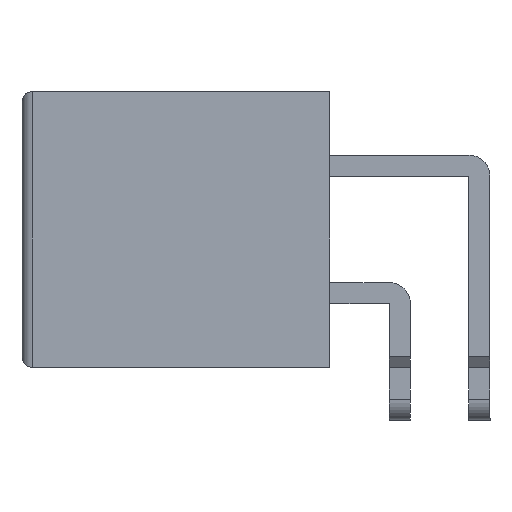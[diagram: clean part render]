
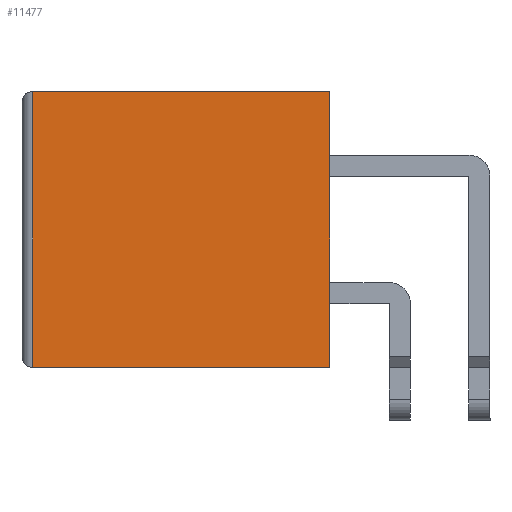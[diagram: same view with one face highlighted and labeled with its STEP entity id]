
A CAD part, left-side view. The second image highlights one B-rep face of the part: STEP entity #11477.
In plain terms, the highlighted planar face has unit normal (-1, 0, 0).
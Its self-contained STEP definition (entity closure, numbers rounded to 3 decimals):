
#1947=VERTEX_POINT('',#18834);
#1948=VERTEX_POINT('',#18838);
#1952=VERTEX_POINT('',#18850);
#1953=VERTEX_POINT('',#18856);
#3086=VECTOR('',#14022,1.);
#3090=VECTOR('',#14033,1.);
#3094=VECTOR('',#14038,1.);
#3095=VECTOR('',#14039,1.);
#4239=LINE('',#18837,#3086);
#4243=LINE('',#18849,#3090);
#4247=LINE('',#18855,#3094);
#4248=LINE('',#18857,#3095);
#5972=EDGE_CURVE('',#1948,#1947,#4239,.T.);
#5978=EDGE_CURVE('',#1952,#1947,#4243,.T.);
#5982=EDGE_CURVE('',#1948,#1953,#4247,.T.);
#5983=EDGE_CURVE('',#1953,#1952,#4248,.T.);
#9347=ORIENTED_EDGE('',*,*,#5972,.F.);
#9348=ORIENTED_EDGE('',*,*,#5982,.T.);
#9349=ORIENTED_EDGE('',*,*,#5983,.T.);
#9350=ORIENTED_EDGE('',*,*,#5978,.T.);
#10150=EDGE_LOOP('',(#9347,#9348,#9349,#9350));
#10836=FACE_BOUND('',#10150,.T.);
#11477=ADVANCED_FACE('',(#10836),#19242,.F.);
#12072=AXIS2_PLACEMENT_3D('',#18854,#14037,$);
#14022=DIRECTION('',(0.,0.,1.));
#14033=DIRECTION('',(0.,1.,0.));
#14037=DIRECTION('',(1.,0.,0.));
#14038=DIRECTION('',(0.,-1.,0.));
#14039=DIRECTION('',(0.,0.,1.));
#18834=CARTESIAN_POINT('',(0.,28.,0.));
#18837=CARTESIAN_POINT('',(0.,28.,-13.));
#18838=CARTESIAN_POINT('',(0.,28.,-26.));
#18849=CARTESIAN_POINT('',(0.,0.,0.));
#18850=CARTESIAN_POINT('',(0.,0.,0.));
#18854=CARTESIAN_POINT('',(0.,14.5,-13.));
#18855=CARTESIAN_POINT('',(0.,29.,-26.));
#18856=CARTESIAN_POINT('',(0.,0.,-26.));
#18857=CARTESIAN_POINT('',(0.,0.,-26.));
#19242=PLANE('',#12072);
